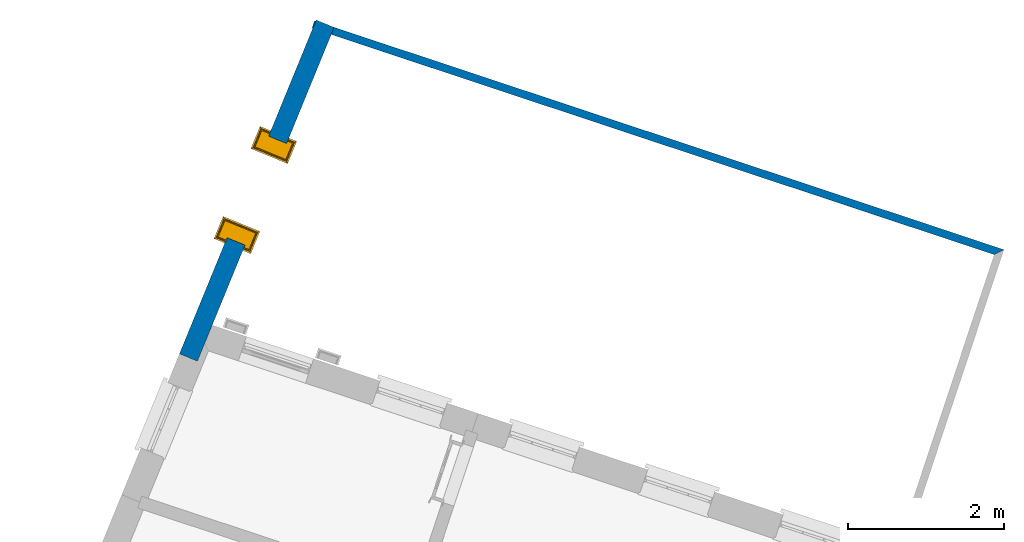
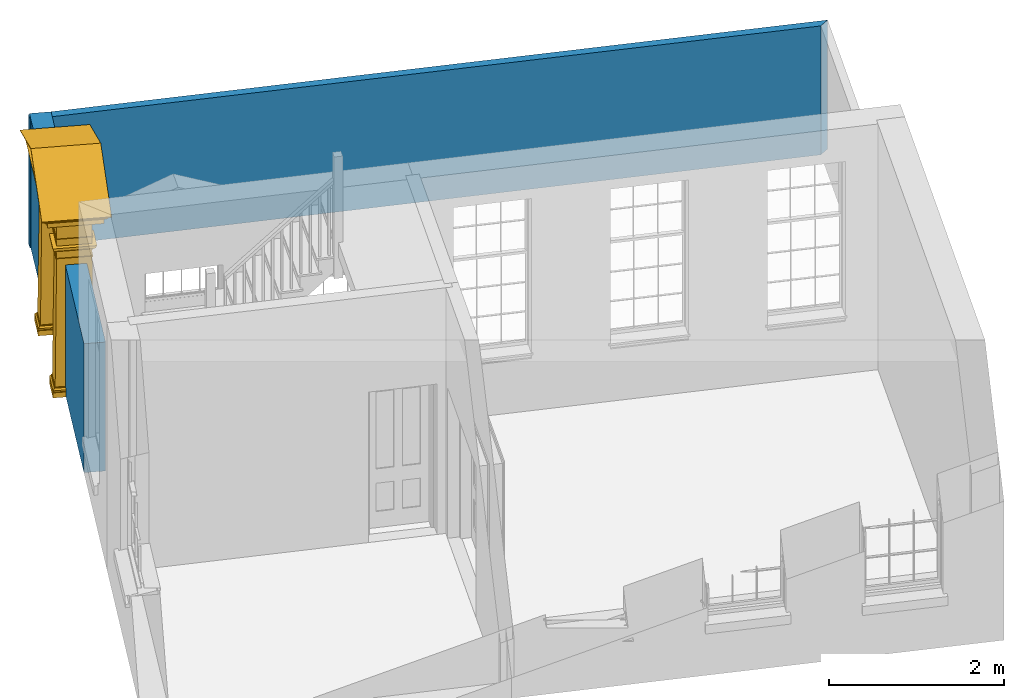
# One storey, part 6 of 6: 2 walls, 1 door, 1 opening.
"""IFC4 building model written with IfcOpenShell, lengths in metres."""

from ifc_helpers import new_model, si_unit, frame, origin, origin_with_axes, place, context, subcontext, project, spatial, polyline, outline, extrude, faceted_brep, source, transform, mapped, material, layer, layer_set, layer_usage, type_object, type_shapes, element, fill, save


model = new_model("IFC4")

# Units and contexts
model_context = context("Model", 3, world=origin_with_axes())
body_context = subcontext(model_context, "Body", "Model", "MODEL_VIEW")
ifc_project = project(units=[si_unit("PLANEANGLEUNIT", "RADIAN"), si_unit("MASSUNIT", "GRAM", prefix="KILO"), si_unit("FORCEUNIT", "NEWTON", prefix="KILO"), si_unit("LENGTHUNIT", "METRE"), si_unit("AREAUNIT", "SQUARE_METRE"), si_unit("VOLUMEUNIT", "CUBIC_METRE")], contexts=[model_context, model_context])

# Sites, building, storey
site_1_placement = place(None, origin_with_axes())
site_1 = spatial("IfcSite", under=ifc_project, at=site_1_placement, Name="Tamar")
site_2_placement = place(site_1_placement, origin_with_axes())
site_2 = spatial("IfcSite", under=site_1, at=site_2_placement, Name="Site plot-16", CompositionType="ELEMENT")
building_placement = place(None, origin_with_axes())
building = spatial("IfcBuilding", under=site_2, at=building_placement, Name="Building plot-16", CompositionType="ELEMENT")
storey_placement = place(None, frame((0.0, 0.0, 26.0), z_axis=(0.0, 0.0, 1.0), x_axis=(1.0, 0.0, 0.0)))
storey = spatial("IfcBuildingStorey", under=building, at=storey_placement, Name="plot-16 0", CompositionType="ELEMENT", Elevation=26.0)

# Wall
ifc_material_1 = material(Name="Masonry")
ifc_layer_1 = layer(ifc_material_1, 0.1, ventilated=False)
ifc_layer_set_1 = layer_set([ifc_layer_1], Name="fence_-0.15_0.25")
ifc_layer_usage_1 = layer_usage(ifc_layer_set_1, "AXIS2", "POSITIVE", -0.25)
wall_type_1 = type_object("IfcWallType", Name="fence_-0.15_0.25", PredefinedType="SOLIDWALL", material=ifc_layer_set_1)
wall_1_placement = place(storey_placement, frame((264.529578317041, 300.73847335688, 0.0), z_axis=(0.0, 0.0, 1.0), x_axis=(-0.949078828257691, 0.315038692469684, 0.0)))
element("IfcWall", 1, at=wall_1_placement, inside=storey, type_object=wall_type_1, material=ifc_layer_usage_1, Name="fence", context=body_context, shape_type="SweptSolid", body=[
    extrude(outline(polyline([(-0.149999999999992, -0.149999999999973), (-0.249999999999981, -0.249999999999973), (9.08351756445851, -0.249999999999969), (9.08351756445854, -0.149999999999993), (-0.149999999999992, -0.149999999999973)])), origin_with_axes(), (0.0, 0.0, 1.0), 1.8),
])

# Wall, opening, door
ifc_material_2 = material(Name="Masonry")
ifc_layer_2 = layer(ifc_material_2, 0.25, ventilated=False)
ifc_layer_set_2 = layer_set([ifc_layer_2], Name="fence_0_0.25")
ifc_layer_usage_2 = layer_usage(ifc_layer_set_2, "AXIS2", "POSITIVE", -0.25)
wall_type_2 = type_object("IfcWallType", Name="fence_0_0.25", PredefinedType="SOLIDWALL", material=ifc_layer_set_2)
wall_2_placement = place(storey_placement, frame((256.145873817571, 303.521373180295, 0.0), z_axis=(0.0, 0.0, 1.0), x_axis=(-0.378975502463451, -0.925406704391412, 0.0)))
wall_2 = element("IfcWall", 2, at=wall_2_placement, inside=storey, type_object=wall_type_2, material=ifc_layer_usage_2, Name="fence", context=body_context, shape_type="SweptSolid", body=[
    extrude(outline(polyline([(-0.249999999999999, -1.61288500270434e-14), (-0.249999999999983, -0.250000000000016), (4.38451206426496, -0.250000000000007), (4.38451206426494, -7.78845799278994e-15), (-0.249999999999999, -1.61288500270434e-14)])), origin_with_axes(), (0.0, 0.0, 1.0), 1.8),
])
opening_placement = place(wall_2_placement, frame((1.36225603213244, 0.0, -0.0100000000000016)))
opening = element("IfcOpeningElement", 3, at=opening_placement, cuts=wall_2, Name="My Opening", ObjectType="Opening", context=body_context, shape_type="SweptSolid", body=[
    extrude(outline(polyline([(0.0, -0.270000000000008), (1.41, -0.270000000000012), (1.41000000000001, 1.01999999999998), (0.0, 1.02000000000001), (0.0, -0.270000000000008)])), origin_with_axes(), (0.0, 0.0, 1.0), 1.81),
])
door_type = type_object("IfcDoorType", Name="gate", OperationType="SINGLE_SWING_LEFT", PredefinedType="NOTDEFINED")
shared_shape = source(origin(), body_context, "Body", "Brep", [
    faceted_brep([(1.565, 0.25, 2.5), (1.565, -0.21, 2.5), (1.565, -0.21, 2.49), (1.565, 0.25, 2.49), (1.445, -0.09, 2.01), (1.215, -0.09, 2.01), (1.215, -0.09, 2.0), (1.445, -0.09, 2.0), (-0.035, -0.09, 2.180001), (-0.025, -0.08, 2.180001), (-0.025, 0.25, 2.180001), (-0.035, 0.25, 2.180001), (-0.025, -0.08, 2.170001), (-0.035, -0.09, 2.170001), (-0.035, 0.25, 2.170001), (-0.025, 0.25, 2.170001), (1.445, -0.09, 2.180001), (1.435, -0.08, 2.180001), (-0.025, -0.08, 2.37), (-0.025, 0.25, 2.37), (1.435, -0.08, 2.170001), (1.445, -0.09, 2.170001), (-0.025, -0.08, 2.08), (-0.025, 0.25, 2.08), (1.445, 0.25, 2.180001), (1.435, 0.25, 2.180001), (1.435, -0.08, 2.37), (-0.035, -0.09, 2.37), (-0.035, 0.25, 2.37), (1.435, 0.25, 2.37), (1.445, 0.25, 2.170001), (1.435, 0.25, 2.170001), (0.235, -0.08, 2.08), (0.235, 0.25, 2.08), (1.175, 0.25, 2.08), (1.175, -0.08, 2.08), (-0.075, 0.25, 2.08), (-0.075, -0.13, 2.08), (1.445, -0.09, 2.37), (-0.035, -0.09, 2.380001), (-0.035, 0.25, 2.380001), (1.445, 0.25, 2.37), (1.435, -0.08, 2.08), (1.435, 0.25, 2.08), (0.235, 0.38, 2.07), (0.235, 0.38, 2.08), (0.235, 0.33, 2.08), (0.235, -0.13, 2.08), (-0.075, 0.25, 2.07), (-0.075, -0.13, 2.07), (1.445, -0.09, 2.380001), (-0.045, -0.1, 2.39), (-0.045, 0.25, 2.39), (1.455, 0.25, 2.39), (1.455, -0.1, 2.39), (1.445, 0.25, 2.380001), (1.485, -0.13, 2.08), (1.485, 0.25, 2.08), (0.235, -0.13, 2.07), (1.175, -0.13, 2.08), (-0.065, 0.25, 2.07), (-0.065, -0.12, 2.07), (-0.055, -0.11, 2.39), (-0.055, 0.25, 2.39), (1.465, 0.25, 2.39), (1.465, -0.11, 2.39), (1.485, 0.25, 2.07), (1.485, -0.13, 2.07), (0.225, 0.25, 2.07), (0.235, 0.25, 2.07), (0.225, -0.12, 2.07), (-0.065, 0.25, 2.04), (-0.065, -0.12, 2.04), (1.475, 0.25, 2.07), (1.475, -0.12, 2.07), (1.175, 0.25, 2.07), (1.185, 0.25, 2.07), (1.185, -0.12, 2.07), (1.175, -0.13, 2.07), (1.175, 0.33, 2.08), (1.175, 0.38, 2.07), (-0.055, -0.11, 2.4), (-0.055, 0.25, 2.4), (1.465, 0.25, 2.4), (1.465, -0.11, 2.4), (0.225, 0.25, 2.04), (0.225, -0.12, 2.04), (-0.055, 0.25, 2.04), (-0.055, -0.11, 2.04), (1.475, 0.25, 2.04), (1.475, -0.12, 2.04), (1.185, 0.25, 2.04), (1.195, 0.25, 2.04), (1.195, -0.11, 2.04), (1.185, -0.12, 2.04), (-0.065, -0.12, 2.4), (-0.065, 0.25, 2.4), (-0.085, -0.14, 2.42), (-0.085, 0.25, 2.42), (-0.085, -0.14, 2.43), (-0.085, 0.25, 2.43), (1.495, 0.25, 2.43), (1.495, -0.14, 2.43), (1.495, -0.14, 2.42), (1.495, 0.25, 2.42), (1.475, 0.25, 2.4), (1.475, -0.12, 2.4), (0.215, 0.25, 2.04), (0.215, -0.11, 2.04), (-0.055, 0.25, 2.03), (-0.055, -0.11, 2.03), (0.215, 0.25, 2.03), (0.215, -0.11, 2.03), (1.465, 0.25, 2.04), (1.465, -0.11, 2.04), (1.195, 0.25, 2.03), (1.195, -0.11, 2.03), (1.465, 0.25, 2.03), (1.465, -0.11, 2.03), (-0.145, -0.2, 2.43), (-0.145, 0.25, 2.43), (1.555, 0.25, 2.43), (1.555, -0.2, 2.43), (-0.035, 0.25, 2.01), (-0.035, -0.09, 2.01), (0.195, 0.25, 2.01), (0.195, -0.09, 2.01), (1.215, 0.25, 2.01), (1.445, 0.25, 2.01), (-0.145, -0.2, 2.49), (-0.145, 0.25, 2.49), (1.555, 0.25, 2.49), (1.555, -0.2, 2.49), (-0.035, 0.25, 2.0), (-0.035, -0.09, 2.0), (0.195, 0.25, 2.0), (0.195, -0.09, 2.0), (1.215, 0.25, 2.0), (1.445, 0.25, 2.0), (-0.155, -0.21, 2.49), (-0.155, 0.25, 2.49), (-0.155, -0.21, 2.5), (-0.155, 0.25, 2.5), (-0.165, -0.22, 2.51), (-0.165, 0.25, 2.51), (1.575, 0.25, 2.51), (1.575, -0.22, 2.51), (-0.025, -0.08, 2.0), (-0.025, 0.25, 2.0), (0.185, -0.08, 2.0), (0.185, 0.25, 2.0), (-0.025, 0.25, 1.91), (-0.025, -0.08, 1.91), (0.185, 0.25, 1.91), (0.185, -0.08, 1.91), (1.225, 0.25, 2.0), (1.225, -0.08, 2.0), (1.435, -0.08, 2.0), (1.435, 0.25, 2.0), (1.435, 0.25, 1.91), (1.435, -0.08, 1.91), (1.225, 0.25, 1.91), (1.225, -0.08, 1.91), (-0.175, -0.23, 2.51), (-0.175, 0.25, 2.51), (1.585, 0.25, 2.51), (1.585, -0.23, 2.51), (-0.035, 0.25, 1.91), (-0.035, -0.09, 1.91), (0.195, -0.09, 1.91), (0.195, 0.25, 1.91), (1.445, -0.09, 1.91), (1.445, 0.25, 1.91), (1.215, -0.09, 1.91), (1.215, 0.25, 1.91), (-0.175, -0.23, 2.52), (-0.175, 0.25, 2.52), (1.585, 0.25, 2.52), (1.585, -0.23, 2.52), (-0.035, 0.25, 1.9), (-0.035, -0.09, 1.9), (0.195, 0.25, 1.9), (0.195, -0.09, 1.9), (-0.025, -0.08, 1.9), (-0.025, 0.25, 1.9), (0.185, -0.08, 1.9), (0.185, 0.25, 1.9), (-0.045, 0.25, 0.13), (-0.045, -0.1, 0.13), (0.205, 0.25, 0.13), (0.205, -0.1, 0.13), (1.445, -0.09, 1.9), (1.445, 0.25, 1.9), (1.435, -0.08, 1.9), (1.435, 0.25, 1.9), (1.455, -0.1, 0.13), (1.455, 0.25, 0.13), (1.225, 0.25, 1.9), (1.205, 0.25, 0.13), (1.205, -0.1, 0.13), (1.225, -0.08, 1.9), (1.215, -0.09, 1.9), (1.215, 0.25, 1.9), (-0.185, -0.24, 2.526), (-0.185, 0.25, 2.526), (-0.150858, -0.23, 2.52), (1.560858, -0.23, 2.52), (-0.195, -0.25, 2.551001), (-0.195, 0.25, 2.551001), (-0.223, 0.25, 2.561001), (-0.223, -0.278, 2.561001), (1.633, -0.278, 2.561001), (1.605, -0.25, 2.551001), (1.605, 0.25, 2.551001), (1.633, 0.25, 2.561001), (1.595, 0.25, 2.526), (1.595, -0.24, 2.526), (-0.055, 0.25, 0.13), (-0.055, -0.11, 0.13), (0.215, 0.25, 0.13), (0.215, -0.11, 0.13), (1.465, -0.11, 0.13), (1.465, 0.25, 0.13), (1.195, 0.25, 0.13), (1.195, -0.11, 0.13), (0.705, -0.23, 2.884508), (0.705, -0.24, 2.89465), (0.705, -0.23, 2.874508), (1.486538, -0.21, 2.522499), (-0.076538, -0.21, 2.522499), (0.705, -0.25, 2.923792), (0.705, -0.278, 2.945389), (-0.223, -0.278, 2.571001), (-0.223, 0.25, 2.571001), (1.633, 0.25, 2.571001), (1.633, -0.278, 2.571001), (-0.055, 0.25, 0.12), (-0.055, -0.11, 0.12), (0.215, 0.25, 0.12), (0.215, -0.11, 0.12), (-0.075, 0.25, 0.1), (-0.075, -0.13, 0.1), (0.235, 0.25, 0.1), (0.235, -0.13, 0.1), (1.465, 0.25, 0.12), (1.465, -0.11, 0.12), (1.485, 0.25, 0.1), (1.485, -0.13, 0.1), (1.195, 0.25, 0.12), (1.175, 0.25, 0.1), (1.175, -0.13, 0.1), (1.195, -0.11, 0.12), (-0.13784, -0.22, 2.52125), (0.705, -0.22, 2.870365), (1.51068, -0.21, 2.522499), (1.54784, -0.22, 2.52125), (1.316733, -0.2, 2.523749), (0.093267, -0.2, 2.523749), (-0.10068, -0.21, 2.522499), (0.705, -0.278, 2.955389), (0.705, 0.25, 2.955389), (-0.075, 0.25, 0.08), (-0.075, -0.13, 0.08), (0.235, 0.25, 0.08), (0.235, -0.13, 0.08), (1.485, -0.13, 0.08), (1.485, 0.25, 0.08), (1.175, 0.25, 0.08), (1.175, -0.13, 0.08), (0.705, -0.21, 2.856223), (0.705, -0.21, 2.846222), (1.272495, -0.14, 2.53125), (0.137505, -0.14, 2.53125), (-0.06352, -0.2, 2.523749), (1.47352, -0.2, 2.523749), (-0.065, 0.25, 0.07), (-0.065, -0.12, 0.07), (0.225, 0.25, 0.07), (0.225, -0.12, 0.07), (1.475, 0.25, 0.07), (1.475, -0.12, 0.07), (1.185, 0.25, 0.07), (1.185, -0.12, 0.07), (0.705, -0.2, 2.842082), (1.298626, -0.14, 2.53125), (1.214197, -0.12, 2.533749), (0.195803, -0.12, 2.533749), (0.111374, -0.14, 2.53125), (0.705, -0.2, 2.777137), (-0.075, 0.25, 0.07), (-0.075, -0.13, 0.07), (0.235, -0.13, 0.07), (0.235, 0.25, 0.07), (0.235, -0.13, 0.0), (-0.075, -0.13, 0.0), (-0.075, 0.25, 0.0), (0.235, 0.25, 0.0), (1.485, -0.13, 0.07), (1.485, 0.25, 0.07), (1.485, -0.13, 0.0), (1.175, -0.13, 0.0), (1.175, 0.25, 0.0), (1.485, 0.25, 0.0), (1.175, -0.13, 0.07), (1.175, 0.25, 0.07), (0.705, -0.14, 2.766314), (0.705, -0.14, 2.777137), (0.705, -0.12, 2.744666), (1.185048, -0.11, 2.535), (0.224952, -0.11, 2.535), (0.705, -0.11, 2.744666), (1.211179, -0.11, 2.535), (1.12675, -0.09, 2.537501), (0.28325, -0.09, 2.537501), (0.198821, -0.11, 2.535), (0.705, -0.11, 2.733843), (1.152881, -0.09, 2.537501), (1.18203, -0.1, 2.536251), (0.286268, -0.08, 2.538751), (1.123732, -0.08, 2.538751), (0.22797, -0.1, 2.536251), (0.257119, -0.09, 2.537501), (0.705, -0.1, 2.733843), (0.705, -0.09, 2.712194), (0.705, -0.09, 2.723017), (0.705, -0.08, 2.712194), (-0.155, 0.46, 2.5), (-0.155, 0.46, 2.49), (-0.035, 0.34, 2.01), (0.195, 0.34, 2.01), (0.195, 0.34, 2.0), (-0.035, 0.34, 2.0), (1.445, 0.34, 2.180001), (1.435, 0.33, 2.180001), (1.435, 0.33, 2.170001), (1.445, 0.34, 2.170001), (-0.035, 0.34, 2.180001), (-0.025, 0.33, 2.180001), (1.435, 0.33, 2.37), (-0.025, 0.33, 2.170001), (-0.035, 0.34, 2.170001), (1.435, 0.33, 2.08), (-0.025, 0.33, 2.37), (1.445, 0.34, 2.37), (1.485, 0.38, 2.08), (-0.035, 0.34, 2.37), (1.445, 0.34, 2.380001), (-0.025, 0.33, 2.08), (1.175, 0.38, 2.08), (1.485, 0.38, 2.07), (-0.035, 0.34, 2.380001), (1.455, 0.35, 2.39), (-0.045, 0.35, 2.39), (-0.075, 0.38, 2.08), (1.475, 0.37, 2.07), (1.465, 0.36, 2.39), (-0.055, 0.36, 2.39), (-0.075, 0.38, 2.07), (1.185, 0.37, 2.07), (1.475, 0.37, 2.04), (-0.065, 0.37, 2.07), (0.225, 0.37, 2.07), (1.465, 0.36, 2.4), (-0.055, 0.36, 2.4), (1.185, 0.37, 2.04), (1.465, 0.36, 2.04), (-0.065, 0.37, 2.04), (0.215, 0.36, 2.04), (0.225, 0.37, 2.04), (1.475, 0.37, 2.4), (1.495, 0.39, 2.42), (1.495, 0.39, 2.43), (-0.085, 0.39, 2.43), (-0.085, 0.39, 2.42), (-0.065, 0.37, 2.4), (1.195, 0.36, 2.04), (1.465, 0.36, 2.03), (1.195, 0.36, 2.03), (-0.055, 0.36, 2.04), (0.215, 0.36, 2.03), (-0.055, 0.36, 2.03), (1.555, 0.45, 2.43), (-0.145, 0.45, 2.43), (1.445, 0.34, 2.01), (1.215, 0.34, 2.01), (1.555, 0.45, 2.49), (-0.145, 0.45, 2.49), (1.445, 0.34, 2.0), (1.215, 0.34, 2.0), (1.565, 0.46, 2.49), (1.565, 0.46, 2.5), (1.575, 0.47, 2.51), (-0.165, 0.47, 2.51), (1.435, 0.33, 2.0), (1.225, 0.33, 2.0), (1.435, 0.33, 1.91), (1.225, 0.33, 1.91), (0.185, 0.33, 2.0), (-0.025, 0.33, 2.0), (-0.025, 0.33, 1.91), (0.185, 0.33, 1.91), (1.585, 0.48, 2.51), (-0.175, 0.48, 2.51), (1.445, 0.34, 1.91), (1.215, 0.34, 1.91), (-0.035, 0.34, 1.91), (0.195, 0.34, 1.91), (1.585, 0.48, 2.52), (-0.175, 0.48, 2.52), (1.445, 0.34, 1.9), (1.215, 0.34, 1.9), (1.435, 0.33, 1.9), (1.225, 0.33, 1.9), (1.455, 0.35, 0.13), (1.205, 0.35, 0.13), (-0.035, 0.34, 1.9), (-0.025, 0.33, 1.9), (-0.045, 0.35, 0.13), (0.205, 0.35, 0.13), (0.185, 0.33, 1.9), (0.195, 0.34, 1.9), (1.595, 0.49, 2.526), (1.560858, 0.48, 2.52), (-0.150858, 0.48, 2.52), (1.605, 0.5, 2.551001), (1.633, 0.528, 2.561001), (-0.223, 0.528, 2.561001), (-0.195, 0.5, 2.551001), (-0.185, 0.49, 2.526), (1.465, 0.36, 0.13), (1.195, 0.36, 0.13), (-0.055, 0.36, 0.13), (0.215, 0.36, 0.13), (0.705, 0.48, 2.884508), (0.705, 0.49, 2.89465), (0.705, 0.48, 2.874508), (-0.076538, 0.46, 2.522499), (1.486538, 0.46, 2.522499), (0.705, 0.5, 2.923792), (0.705, 0.528, 2.945389), (1.633, 0.528, 2.571001), (-0.223, 0.528, 2.571001), (1.465, 0.36, 0.12), (1.195, 0.36, 0.12), (1.485, 0.38, 0.1), (1.175, 0.38, 0.1), (-0.055, 0.36, 0.12), (-0.075, 0.38, 0.1), (0.235, 0.38, 0.1), (0.215, 0.36, 0.12), (1.54784, 0.47, 2.52125), (0.705, 0.47, 2.870365), (-0.10068, 0.46, 2.522499), (-0.13784, 0.47, 2.52125), (0.093267, 0.45, 2.523749), (1.316733, 0.45, 2.523749), (1.51068, 0.46, 2.522499), (0.705, 0.528, 2.955389), (1.485, 0.38, 0.08), (1.175, 0.38, 0.08), (-0.075, 0.38, 0.08), (0.235, 0.38, 0.08), (0.705, 0.46, 2.856223), (0.705, 0.46, 2.846222), (0.137505, 0.39, 2.53125), (1.272495, 0.39, 2.53125), (1.47352, 0.45, 2.523749), (-0.06352, 0.45, 2.523749), (1.475, 0.37, 0.07), (1.185, 0.37, 0.07), (-0.065, 0.37, 0.07), (0.225, 0.37, 0.07), (0.705, 0.45, 2.842082), (0.111374, 0.39, 2.53125), (0.195803, 0.37, 2.533749), (1.214197, 0.37, 2.533749), (1.298626, 0.39, 2.53125), (0.705, 0.45, 2.777137), (1.485, 0.38, 0.07), (1.175, 0.38, 0.07), (1.175, 0.38, 0.0), (1.485, 0.38, 0.0), (-0.075, 0.38, 0.07), (-0.075, 0.38, 0.0), (0.235, 0.38, 0.0), (0.235, 0.38, 0.07), (0.705, 0.39, 2.766314), (0.705, 0.39, 2.777137), (0.705, 0.37, 2.744666), (0.224952, 0.36, 2.535), (1.185048, 0.36, 2.535), (0.705, 0.36, 2.744666), (0.198821, 0.36, 2.535), (0.28325, 0.34, 2.537501), (1.12675, 0.34, 2.537501), (1.211179, 0.36, 2.535), (0.705, 0.36, 2.733843), (0.257119, 0.34, 2.537501), (0.22797, 0.35, 2.536251), (1.123732, 0.33, 2.538751), (0.286268, 0.33, 2.538751), (1.18203, 0.35, 2.536251), (1.152881, 0.34, 2.537501), (0.705, 0.35, 2.733843), (0.705, 0.34, 2.723017), (0.705, 0.34, 2.712194), (0.705, 0.33, 2.712194)], [[[0, 1, 2, 3]], [[4, 5, 6, 7]], [[8, 9, 10, 11]], [[12, 13, 14, 15]], [[13, 8, 11, 14]], [[9, 8, 16, 17]], [[9, 18, 19, 10]], [[13, 12, 20, 21]], [[22, 12, 15, 23]], [[8, 13, 21, 16]], [[17, 16, 24, 25]], [[18, 9, 17, 26]], [[27, 28, 19, 18]], [[26, 17, 25, 29]], [[16, 21, 30, 24]], [[21, 20, 31, 30]], [[32, 33, 34, 35]], [[12, 32, 35, 20]], [[12, 22, 32]], [[22, 23, 36, 37]], [[27, 18, 26, 38]], [[39, 40, 28, 27]], [[41, 38, 26, 29]], [[20, 42, 43, 31]], [[44, 45, 46]], [[42, 20, 35]], [[37, 47, 32, 22]], [[36, 48, 49, 37]], [[39, 27, 38, 50]], [[51, 52, 40, 39]], [[53, 54, 50, 55]], [[55, 50, 38, 41]], [[43, 42, 56, 57]], [[32, 47, 58]], [[59, 56, 42, 35]], [[58, 47, 37, 49]], [[48, 60, 61, 49]], [[51, 39, 50, 54]], [[62, 63, 52, 51]], [[64, 65, 54, 53]], [[66, 57, 56, 67]], [[68, 69, 58, 70]], [[60, 71, 72, 61]], [[73, 66, 67, 74]], [[75, 76, 77, 78]], [[34, 79, 80, 75]], [[59, 78, 67, 56]], [[61, 70, 58, 49]], [[62, 51, 54, 65]], [[81, 82, 63, 62]], [[83, 84, 65, 64]], [[85, 68, 70, 86]], [[71, 87, 88, 72]], [[86, 70, 61, 72]], [[77, 74, 67, 78]], [[89, 73, 74, 90]], [[91, 92, 93, 94]], [[76, 91, 94, 77]], [[81, 62, 65, 84]], [[95, 96, 82, 81]], [[97, 98, 96, 95]], [[99, 100, 98, 97]], [[101, 102, 103, 104]], [[105, 106, 84, 83]], [[104, 103, 106, 105]], [[107, 85, 86, 108]], [[87, 109, 110, 88]], [[88, 108, 86, 72]], [[111, 107, 108, 112]], [[77, 94, 90, 74]], [[113, 89, 90, 114]], [[92, 115, 116, 93]], [[93, 114, 90, 94]], [[117, 113, 114, 118]], [[95, 81, 84, 106]], [[97, 95, 106, 103]], [[119, 120, 100, 99]], [[99, 97, 103, 102]], [[121, 122, 102, 101]], [[109, 123, 124, 110]], [[112, 108, 88, 110]], [[125, 111, 112, 126]], [[115, 127, 5, 116]], [[93, 116, 118, 114]], [[128, 117, 118, 4]], [[129, 130, 120, 119]], [[119, 99, 102, 122]], [[131, 132, 122, 121]], [[123, 133, 134, 124]], [[110, 124, 126, 112]], [[135, 125, 126, 136]], [[127, 137, 6, 5]], [[4, 118, 116, 5]], [[138, 128, 4, 7]], [[139, 140, 130, 129]], [[129, 119, 122, 132]], [[141, 142, 140, 139]], [[143, 144, 142, 141]], [[145, 146, 1, 0]], [[3, 2, 132, 131]], [[147, 134, 133, 148]], [[126, 124, 134, 136]], [[135, 136, 149, 150]], [[148, 151, 152, 147]], [[153, 150, 149, 154]], [[6, 137, 155, 156]], [[7, 157, 158, 138]], [[159, 158, 157, 160]], [[155, 161, 162, 156]], [[139, 129, 132, 2]], [[141, 139, 2, 1]], [[163, 164, 144, 143]], [[143, 141, 1, 146]], [[165, 166, 146, 145]], [[147, 149, 136, 134]], [[167, 168, 152, 151]], [[147, 152, 154, 149]], [[154, 169, 170, 153]], [[156, 157, 7, 6]], [[160, 157, 156, 162]], [[171, 172, 159, 160]], [[173, 162, 161, 174]], [[175, 176, 164, 163]], [[163, 143, 146, 166]], [[177, 178, 166, 165]], [[179, 180, 168, 167]], [[154, 152, 168, 169]], [[181, 170, 169, 182]], [[183, 180, 179, 184]], [[181, 182, 185, 186]], [[184, 187, 188, 183]], [[189, 186, 185, 190]], [[160, 162, 173, 171]], [[191, 192, 172, 171]], [[191, 193, 194, 192]], [[193, 195, 196, 194]], [[197, 198, 199, 200]], [[201, 202, 197, 200]], [[174, 202, 201, 173]], [[203, 204, 176, 175]], [[175, 163, 205]], [[163, 166, 206, 205]], [[207, 208, 204, 203]], [[209, 208, 207, 210]], [[211, 212, 213, 214]], [[215, 216, 178, 177]], [[213, 212, 216, 215]], [[178, 206, 166]], [[180, 182, 169, 168]], [[183, 185, 182, 180]], [[187, 217, 218, 188]], [[183, 188, 190, 185]], [[219, 189, 190, 220]], [[201, 191, 171, 173]], [[200, 193, 191, 201]], [[195, 193, 200, 199]], [[195, 221, 222, 196]], [[198, 223, 224, 199]], [[175, 225, 226, 203]], [[225, 175, 205, 227]], [[205, 206, 228, 229]], [[203, 226, 230, 207]], [[207, 230, 231, 210]], [[232, 233, 209, 210]], [[234, 235, 211, 214]], [[231, 230, 212, 211]], [[216, 226, 225, 178]], [[212, 230, 226, 216]], [[227, 206, 178, 225]], [[217, 236, 237, 218]], [[220, 190, 188, 218]], [[238, 219, 220, 239]], [[236, 240, 241, 237]], [[242, 238, 239, 243]], [[221, 195, 199, 224]], [[244, 222, 221, 245]], [[246, 244, 245, 247]], [[248, 249, 250, 251]], [[223, 248, 251, 224]], [[227, 205, 252, 253]], [[254, 228, 206, 255]], [[256, 257, 229, 228]], [[252, 205, 229, 258]], [[231, 259, 232, 210]], [[260, 233, 232, 259]], [[234, 260, 259, 235]], [[259, 231, 211, 235]], [[253, 255, 206, 227]], [[239, 220, 218, 237]], [[261, 262, 241, 240]], [[243, 239, 237, 241]], [[263, 242, 243, 264]], [[224, 251, 245, 221]], [[251, 250, 247, 245]], [[265, 266, 246, 247]], [[249, 267, 268, 250]], [[253, 252, 258, 269]], [[270, 228, 254, 269]], [[269, 254, 255, 253]], [[256, 271, 272, 257]], [[273, 229, 257]], [[274, 256, 228]], [[269, 258, 229, 270]], [[261, 275, 276, 262]], [[264, 243, 241, 262]], [[277, 263, 264, 278]], [[250, 268, 265, 247]], [[279, 266, 265, 280]], [[267, 281, 282, 268]], [[283, 274, 228, 270]], [[284, 271, 256]], [[271, 285, 286, 272]], [[287, 257, 272]], [[270, 229, 273, 283]], [[283, 273, 257, 288]], [[288, 256, 274, 283]], [[289, 290, 276, 275]], [[262, 276, 278, 264]], [[278, 291, 292, 277]], [[293, 294, 295, 296]], [[280, 265, 268, 282]], [[297, 298, 279, 280]], [[299, 300, 301, 302]], [[303, 282, 281, 304]], [[305, 271, 284, 306]], [[306, 284, 256, 288]], [[307, 285, 271, 305]], [[285, 308, 309, 286]], [[305, 272, 286, 307]], [[288, 257, 287, 306]], [[306, 287, 272, 305]], [[289, 295, 294, 290]], [[278, 276, 290, 291]], [[296, 292, 291, 293]], [[290, 294, 293, 291]], [[280, 282, 303, 297]], [[302, 298, 297, 299]], [[299, 297, 303, 300]], [[304, 301, 300, 303]], [[310, 311, 285, 307]], [[311, 308, 285]], [[308, 312, 313, 309]], [[314, 286, 309]], [[307, 286, 314, 310]], [[315, 308, 311, 310]], [[316, 312, 308, 317]], [[318, 313, 312, 319]], [[320, 309, 313, 321]], [[310, 314, 309, 315]], [[322, 317, 308, 315]], [[323, 312, 316, 324]], [[324, 316, 317, 322]], [[323, 313, 318, 325]], [[325, 319, 312, 323]], [[325, 318, 319]], [[315, 309, 320, 322]], [[324, 321, 313, 323]], [[322, 320, 321, 324]], [[142, 326, 327, 140]], [[328, 329, 330, 331]], [[332, 333, 25, 24]], [[334, 335, 30, 31]], [[335, 332, 24, 30]], [[333, 332, 336, 337]], [[333, 338, 29, 25]], [[335, 334, 339, 340]], [[341, 334, 31, 43]], [[332, 335, 340, 336]], [[337, 336, 11, 10]], [[338, 333, 337, 342]], [[343, 41, 29, 338]], [[342, 337, 10, 19]], [[336, 340, 14, 11]], [[340, 339, 15, 14]], [[79, 34, 33, 46]], [[334, 79, 46, 339]], [[334, 341, 79]], [[341, 43, 57, 344]], [[343, 338, 342, 345]], [[346, 55, 41, 343]], [[28, 345, 342, 19]], [[339, 347, 23, 15]], [[35, 34, 75, 78]], [[33, 32, 58, 69]], [[347, 339, 46]], [[344, 348, 79, 341]], [[57, 66, 349, 344]], [[346, 343, 345, 350]], [[351, 53, 55, 346]], [[52, 352, 350, 40]], [[40, 350, 345, 28]], [[23, 347, 353, 36]], [[79, 348, 80]], [[45, 353, 347, 46]], [[80, 348, 344, 349]], [[66, 73, 354, 349]], [[351, 346, 350, 352]], [[355, 64, 53, 351]], [[63, 356, 352, 52]], [[48, 36, 353, 357]], [[76, 75, 80, 358]], [[73, 89, 359, 354]], [[60, 48, 357, 360]], [[69, 68, 361, 44]], [[46, 33, 69, 44]], [[45, 44, 357, 353]], [[354, 358, 80, 349]], [[355, 351, 352, 356]], [[362, 83, 64, 355]], [[82, 363, 356, 63]], [[91, 76, 358, 364]], [[89, 113, 365, 359]], [[364, 358, 354, 359]], [[361, 360, 357, 44]], [[71, 60, 360, 366]], [[85, 107, 367, 368]], [[68, 85, 368, 361]], [[362, 355, 356, 363]], [[369, 105, 83, 362]], [[370, 104, 105, 369]], [[371, 101, 104, 370]], [[100, 372, 373, 98]], [[96, 374, 363, 82]], [[98, 373, 374, 96]], [[92, 91, 364, 375]], [[113, 117, 376, 365]], [[365, 375, 364, 359]], [[115, 92, 375, 377]], [[361, 368, 366, 360]], [[87, 71, 366, 378]], [[107, 111, 379, 367]], [[367, 378, 366, 368]], [[109, 87, 378, 380]], [[369, 362, 363, 374]], [[370, 369, 374, 373]], [[381, 121, 101, 371]], [[371, 370, 373, 372]], [[120, 382, 372, 100]], [[117, 128, 383, 376]], [[377, 375, 365, 376]], [[127, 115, 377, 384]], [[111, 125, 329, 379]], [[367, 379, 380, 378]], [[123, 109, 380, 328]], [[385, 131, 121, 381]], [[381, 371, 372, 382]], [[130, 386, 382, 120]], [[128, 138, 387, 383]], [[376, 383, 384, 377]], [[137, 127, 384, 388]], [[125, 135, 330, 329]], [[328, 380, 379, 329]], [[133, 123, 328, 331]], [[389, 3, 131, 385]], [[385, 381, 382, 386]], [[390, 0, 3, 389]], [[391, 145, 0, 390]], [[144, 392, 326, 142]], [[140, 327, 386, 130]], [[393, 387, 138, 158]], [[384, 383, 387, 388]], [[137, 388, 394, 155]], [[158, 159, 395, 393]], [[161, 155, 394, 396]], [[330, 135, 150, 397]], [[331, 398, 148, 133]], [[151, 148, 398, 399]], [[150, 153, 400, 397]], [[389, 385, 386, 327]], [[390, 389, 327, 326]], [[401, 165, 145, 391]], [[391, 390, 326, 392]], [[164, 402, 392, 144]], [[393, 394, 388, 387]], [[172, 403, 395, 159]], [[393, 395, 396, 394]], [[396, 404, 174, 161]], [[397, 398, 331, 330]], [[399, 398, 397, 400]], [[405, 167, 151, 399]], [[406, 400, 153, 170]], [[407, 177, 165, 401]], [[401, 391, 392, 402]], [[176, 408, 402, 164]], [[192, 409, 403, 172]], [[396, 395, 403, 404]], [[202, 174, 404, 410]], [[411, 409, 192, 194]], [[202, 410, 412, 197]], [[194, 196, 413, 411]], [[198, 197, 412, 414]], [[399, 400, 406, 405]], [[415, 179, 167, 405]], [[415, 416, 184, 179]], [[416, 417, 187, 184]], [[186, 189, 418, 419]], [[420, 181, 186, 419]], [[170, 181, 420, 406]], [[421, 215, 177, 407]], [[407, 401, 422]], [[401, 402, 423, 422]], [[424, 213, 215, 421]], [[214, 213, 424, 425]], [[426, 427, 208, 209]], [[204, 428, 408, 176]], [[208, 427, 428, 204]], [[408, 423, 402]], [[409, 410, 404, 403]], [[411, 412, 410, 409]], [[196, 222, 429, 413]], [[411, 413, 414, 412]], [[223, 198, 414, 430]], [[420, 415, 405, 406]], [[419, 416, 415, 420]], [[417, 416, 419, 418]], [[417, 431, 217, 187]], [[189, 219, 432, 418]], [[407, 433, 434, 421]], [[433, 407, 422, 435]], [[422, 423, 436, 437]], [[421, 434, 438, 424]], [[424, 438, 439, 425]], [[440, 234, 214, 425]], [[233, 441, 426, 209]], [[439, 438, 427, 426]], [[428, 434, 433, 408]], [[427, 438, 434, 428]], [[435, 423, 408, 433]], [[222, 244, 442, 429]], [[430, 414, 413, 429]], [[248, 223, 430, 443]], [[244, 246, 444, 442]], [[249, 248, 443, 445]], [[431, 417, 418, 432]], [[236, 217, 431, 446]], [[240, 236, 446, 447]], [[238, 242, 448, 449]], [[219, 238, 449, 432]], [[435, 422, 450, 451]], [[452, 436, 423, 453]], [[454, 455, 437, 436]], [[450, 422, 437, 456]], [[439, 457, 440, 425]], [[260, 234, 440, 457]], [[233, 260, 457, 441]], [[457, 439, 426, 441]], [[451, 453, 423, 435]], [[443, 430, 429, 442]], [[266, 458, 444, 246]], [[445, 443, 442, 444]], [[267, 249, 445, 459]], [[432, 449, 446, 431]], [[449, 448, 447, 446]], [[460, 261, 240, 447]], [[242, 263, 461, 448]], [[451, 450, 456, 462]], [[463, 436, 452, 462]], [[462, 452, 453, 451]], [[454, 464, 465, 455]], [[466, 437, 455]], [[467, 454, 436]], [[462, 456, 437, 463]], [[266, 279, 468, 458]], [[459, 445, 444, 458]], [[281, 267, 459, 469]], [[448, 461, 460, 447]], [[275, 261, 460, 470]], [[263, 277, 471, 461]], [[472, 467, 436, 463]], [[473, 464, 454]], [[464, 474, 475, 465]], [[476, 455, 465]], [[463, 437, 466, 472]], [[472, 466, 455, 477]], [[477, 454, 467, 472]], [[298, 478, 468, 279]], [[458, 468, 469, 459]], [[469, 479, 304, 281]], [[480, 481, 302, 301]], [[470, 460, 461, 471]], [[482, 289, 275, 470]], [[483, 484, 296, 295]], [[485, 471, 277, 292]], [[486, 464, 473, 487]], [[487, 473, 454, 477]], [[488, 474, 464, 486]], [[474, 489, 490, 475]], [[486, 465, 475, 488]], [[477, 455, 476, 487]], [[487, 476, 465, 486]], [[298, 302, 481, 478]], [[469, 468, 478, 479]], [[301, 304, 479, 480]], [[478, 481, 480, 479]], [[470, 471, 485, 482]], [[295, 289, 482, 483]], [[483, 482, 485, 484]], [[292, 296, 484, 485]], [[491, 492, 474, 488]], [[492, 489, 474]], [[489, 493, 494, 490]], [[495, 475, 490]], [[488, 475, 495, 491]], [[496, 489, 492, 491]], [[497, 493, 489, 498]], [[499, 494, 493, 500]], [[501, 490, 494, 502]], [[491, 495, 490, 496]], [[503, 498, 489, 496]], [[497, 504, 505, 493]], [[504, 497, 498, 503]], [[505, 494, 499, 506]], [[506, 500, 493, 505]], [[506, 499, 500]], [[496, 490, 501, 503]], [[504, 502, 494, 505]], [[503, 501, 502, 504]], [[78, 59, 35]]]),
])
type_shapes(door_type, [shared_shape])
door_placement = place(storey_placement, frame((255.379752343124, 302.363055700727, -0.0100000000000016), z_axis=(0.0, 0.0, 1.0), x_axis=(-0.53435545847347, -1.30482345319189, 0.0)))
door = element("IfcDoor", 4, at=door_placement, inside=storey, type_object=door_type, Name="house entrance gate", OverallHeight=1.81, OverallWidth=1.41, context=body_context, shape_type="MappedRepresentation", body=[
    mapped(shared_shape, transform((0.0, 0.0, 0.0), scale=1.0)),
])
fill(opening, door)

save(model, "model.ifc")
